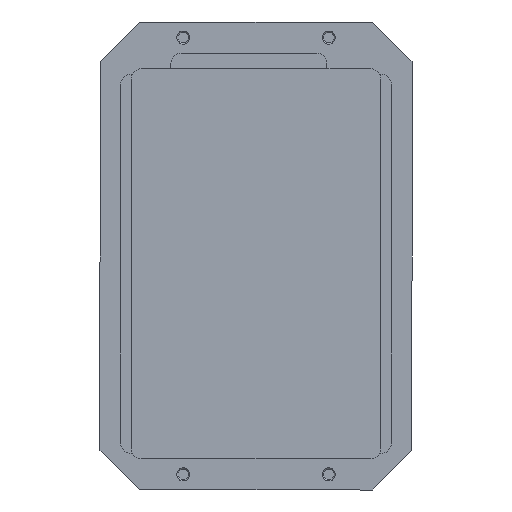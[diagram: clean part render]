
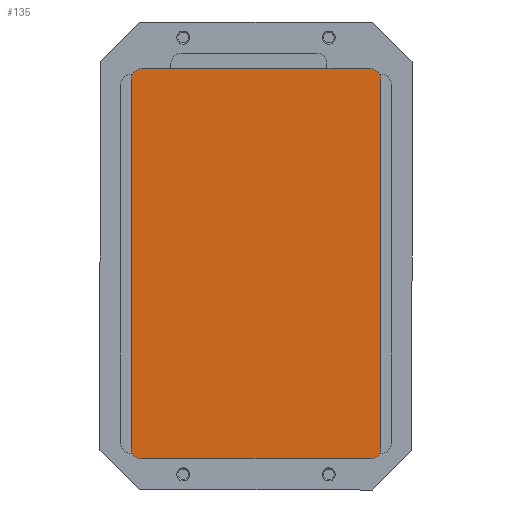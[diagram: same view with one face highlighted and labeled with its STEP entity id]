
A CAD part, front view. The second image highlights one B-rep face of the part: STEP entity #135.
In plain terms, the highlighted planar face has unit normal (0, -1, 0).
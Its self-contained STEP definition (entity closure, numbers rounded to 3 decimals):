
#135=ADVANCED_FACE('',(#233),#893,.T.);
#233=FACE_OUTER_BOUND('',#349,.F.);
#349=EDGE_LOOP('',(#546,#547,#548,#549,#550,#551,#552,#553,#554,#555));
#546=ORIENTED_EDGE('',*,*,#1286,.T.);
#547=ORIENTED_EDGE('',*,*,#1280,.T.);
#548=ORIENTED_EDGE('',*,*,#1289,.T.);
#549=ORIENTED_EDGE('',*,*,#1283,.T.);
#550=ORIENTED_EDGE('',*,*,#1288,.T.);
#551=ORIENTED_EDGE('',*,*,#1277,.T.);
#552=ORIENTED_EDGE('',*,*,#1273,.T.);
#553=ORIENTED_EDGE('',*,*,#1272,.F.);
#554=ORIENTED_EDGE('',*,*,#1287,.T.);
#555=ORIENTED_EDGE('',*,*,#1274,.T.);
#893=PLANE('',#1728);
#984=LINE('',#2544,#1119);
#985=LINE('',#2545,#1120);
#994=LINE('',#2558,#1129);
#995=LINE('',#2559,#1130);
#996=LINE('',#2560,#1131);
#997=LINE('',#2561,#1132);
#1119=VECTOR('',#1936,30.);
#1120=VECTOR('',#1937,5.65);
#1129=VECTOR('',#1954,71.);
#1130=VECTOR('',#1955,8.35);
#1131=VECTOR('',#1956,71.);
#1132=VECTOR('',#1957,44.);
#1272=EDGE_CURVE('',#1567,#1568,#984,.T.);
#1273=EDGE_CURVE('',#1566,#1568,#985,.T.);
#1274=EDGE_CURVE('',#1565,#1564,#1445,.T.);
#1277=EDGE_CURVE('',#1562,#1566,#1446,.T.);
#1280=EDGE_CURVE('',#1560,#1559,#1447,.T.);
#1283=EDGE_CURVE('',#1557,#1556,#1448,.T.);
#1286=EDGE_CURVE('',#1564,#1560,#994,.T.);
#1287=EDGE_CURVE('',#1567,#1565,#995,.T.);
#1288=EDGE_CURVE('',#1556,#1562,#996,.T.);
#1289=EDGE_CURVE('',#1559,#1557,#997,.T.);
#1445=CIRCLE('',#1675,2.);
#1446=CIRCLE('',#1676,2.);
#1447=CIRCLE('',#1677,2.);
#1448=CIRCLE('',#1678,2.);
#1556=VERTEX_POINT('',#2409);
#1557=VERTEX_POINT('',#2410);
#1559=VERTEX_POINT('',#2412);
#1560=VERTEX_POINT('',#2413);
#1562=VERTEX_POINT('',#2415);
#1564=VERTEX_POINT('',#2417);
#1565=VERTEX_POINT('',#2418);
#1566=VERTEX_POINT('',#2419);
#1567=VERTEX_POINT('',#2420);
#1568=VERTEX_POINT('',#2421);
#1675=AXIS2_PLACEMENT_3D('',#2546,#1938,#1939);
#1676=AXIS2_PLACEMENT_3D('',#2549,#1942,#1943);
#1677=AXIS2_PLACEMENT_3D('',#2552,#1946,#1947);
#1678=AXIS2_PLACEMENT_3D('',#2555,#1950,#1951);
#1728=AXIS2_PLACEMENT_3D('',#2658,#2103,#2104);
#1936=DIRECTION('',(-1.,0.,0.));
#1937=DIRECTION('',(1.,0.,0.));
#1938=DIRECTION('',(0.,1.,0.));
#1939=DIRECTION('',(0.,0.,1.));
#1942=DIRECTION('',(0.,1.,0.));
#1943=DIRECTION('',(-1.,0.,0.));
#1946=DIRECTION('',(0.,1.,0.));
#1947=DIRECTION('',(1.,0.,0.));
#1950=DIRECTION('',(0.,1.,0.));
#1951=DIRECTION('',(0.,0.,-1.));
#1954=DIRECTION('',(0.,0.,-1.));
#1955=DIRECTION('',(1.,0.,0.));
#1956=DIRECTION('',(0.,0.,1.));
#1957=DIRECTION('',(-1.,0.,0.));
#2103=DIRECTION('',(0.,-1.,0.));
#2104=DIRECTION('',(1.,0.,0.));
#2409=CARTESIAN_POINT('',(-19.243,130.305,-57.027));
#2410=CARTESIAN_POINT('',(-17.243,130.305,-59.027));
#2412=CARTESIAN_POINT('',(26.757,130.305,-59.027));
#2413=CARTESIAN_POINT('',(28.757,130.305,-57.027));
#2415=CARTESIAN_POINT('',(-19.243,130.305,13.973));
#2417=CARTESIAN_POINT('',(28.757,130.305,13.973));
#2418=CARTESIAN_POINT('',(26.757,130.305,15.973));
#2419=CARTESIAN_POINT('',(-17.243,130.305,15.973));
#2420=CARTESIAN_POINT('',(18.407,130.305,15.973));
#2421=CARTESIAN_POINT('',(-11.593,130.305,15.973));
#2544=CARTESIAN_POINT('',(18.407,130.305,15.973));
#2545=CARTESIAN_POINT('',(-17.243,130.305,15.973));
#2546=CARTESIAN_POINT('',(26.757,130.305,13.973));
#2549=CARTESIAN_POINT('',(-17.243,130.305,13.973));
#2552=CARTESIAN_POINT('',(26.757,130.305,-57.027));
#2555=CARTESIAN_POINT('',(-17.243,130.305,-57.027));
#2558=CARTESIAN_POINT('',(28.757,130.305,13.973));
#2559=CARTESIAN_POINT('',(18.407,130.305,15.973));
#2560=CARTESIAN_POINT('',(-19.243,130.305,-57.027));
#2561=CARTESIAN_POINT('',(26.757,130.305,-59.027));
#2658=CARTESIAN_POINT('',(-19.993,130.305,16.723));
